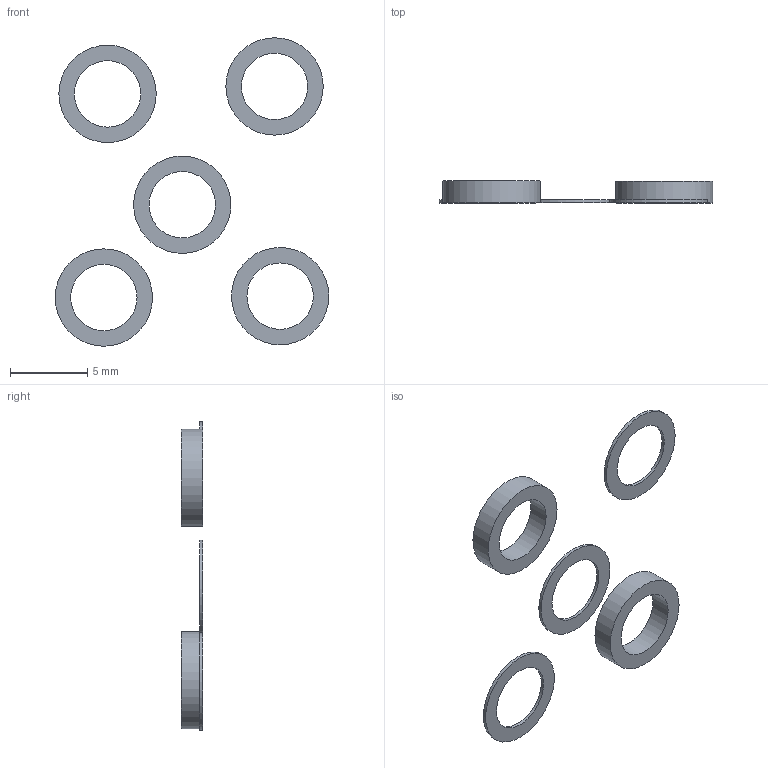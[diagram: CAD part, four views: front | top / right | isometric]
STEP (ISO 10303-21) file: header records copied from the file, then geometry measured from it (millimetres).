
FILE_DESCRIPTION(/* description */ (''),/* implementation_level */ '2;1');
FILE_NAME(/* name */ 'X:\Develop\CAD\NakataOmni\DriveUnitR3\Spacers.stp',/* time_stamp */ '2024-05-27T00:18:41+09:00',/* author */ ('kumagai'),/* organization */ (''),/* preprocessor_version */ 'ST-DEVELOPER v19',/* originating_system */ 'Autodesk Inventor 2023',/* authorisation */ '');
FILE_SCHEMA (('AUTOMOTIVE_DESIGN { 1 0 10303 214 3 1 1 }'));
Length unit declared in the file: millimetre
Products named in the file (1): Spacers
Bounding box: 17.71 x 1.4 x 19.96 mm (x, y, z)
Volume: 56.6 mm3; surface area: 279.7 mm2
Topology: 5 solids, 5 shells, 20 faces, 30 edges, 20 vertices
Faces by surface type: cylinder 10, plane 10
Full cylindrical faces by diameter (mm): 4.3 x5, 6.3 x5
Entity records: 513 total; most frequent: DIRECTION 92, CARTESIAN_POINT 71, ORIENTED_EDGE 60, AXIS2_PLACEMENT_3D 41, EDGE_LOOP 30, EDGE_CURVE 30, FACE_OUTER_BOUND 20, CIRCLE 20
